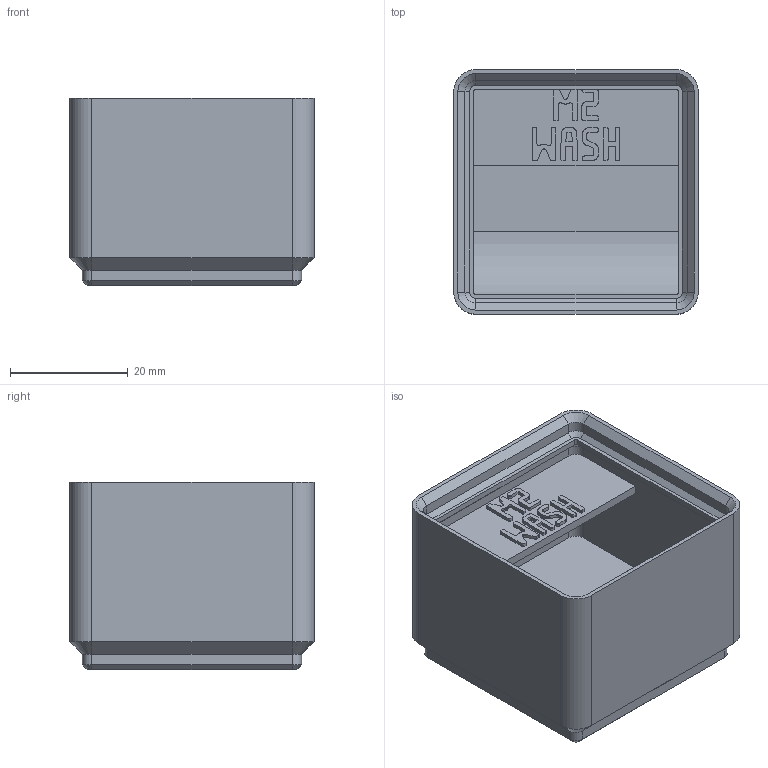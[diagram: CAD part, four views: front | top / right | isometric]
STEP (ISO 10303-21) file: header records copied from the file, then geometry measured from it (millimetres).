
FILE_DESCRIPTION(('Open CASCADE Model'),'2;1');
FILE_NAME('Open CASCADE Shape Model','2026-11-03T10:26:18',('Author'),( 'Open CASCADE'),'Open CASCADE STEP processor 8.0','build123d', 'Unknown');
FILE_SCHEMA(('AUTOMOTIVE_DESIGN { 1 0 10303 214 1 1 1 1 }'));
Products named in the file (1): COMPOUND
Bounding box: 41.5 x 41.5 x 31.8 mm (x, y, z)
Volume: 24294.5 mm3; surface area: 12296.8 mm2
Topology: 1 solids, 1 shells, 774 faces, 2233 edges, 1470 vertices
Faces by surface type: plane 731, cylinder 23, cone 20
Entity records: 52659 total; most frequent: CARTESIAN_POINT 10879, DIRECTION 6731, LINE 5053, VECTOR 5053, ORIENTED_EDGE 4466, PCURVE 4466, DEFINITIONAL_REPRESENTATION 4466, EDGE_CURVE 2233
